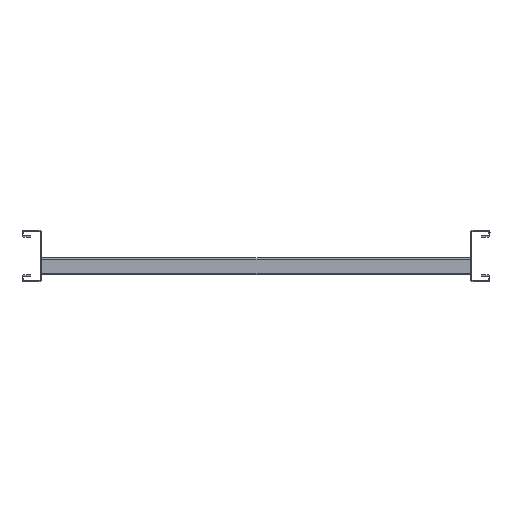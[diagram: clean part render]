
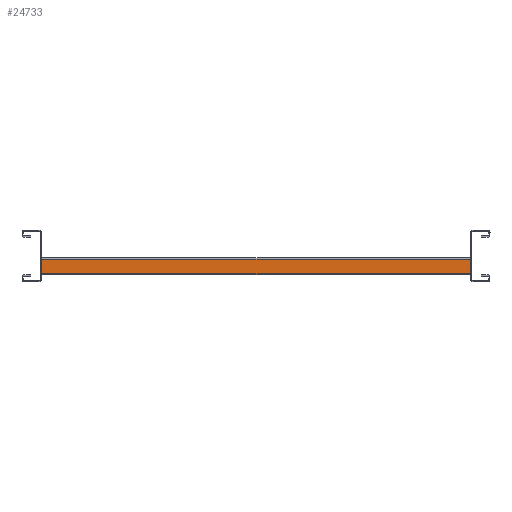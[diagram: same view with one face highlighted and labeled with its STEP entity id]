
A CAD part, left-side view. The second image highlights one B-rep face of the part: STEP entity #24733.
In plain terms, the highlighted planar face has unit normal (-1, 0, 0) as drawn and (0, 1, 0) by its records, which use the part's own axes.
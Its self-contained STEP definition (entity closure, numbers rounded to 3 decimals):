
#1779=FACE_OUTER_BOUND('',#3447,.T.);
#3447=EDGE_LOOP('',(#22220,#22221,#22222,#22223));
#6717=LINE('',#38034,#9957);
#6723=LINE('',#38051,#9963);
#6844=LINE('',#38496,#10084);
#6845=LINE('',#38498,#10085);
#9957=VECTOR('',#31276,304.8);
#9963=VECTOR('',#31288,304.8);
#10084=VECTOR('',#31637,304.8);
#10085=VECTOR('',#31640,304.8);
#12232=VERTEX_POINT('',#38031);
#12233=VERTEX_POINT('',#38033);
#12240=VERTEX_POINT('',#38048);
#12241=VERTEX_POINT('',#38050);
#15512=EDGE_CURVE('',#12232,#12233,#6717,.T.);
#15520=EDGE_CURVE('',#12240,#12241,#6723,.T.);
#15744=EDGE_CURVE('',#12241,#12232,#6844,.T.);
#15745=EDGE_CURVE('',#12240,#12233,#6845,.T.);
#22220=ORIENTED_EDGE('',*,*,#15512,.F.);
#22221=ORIENTED_EDGE('',*,*,#15744,.F.);
#22222=ORIENTED_EDGE('',*,*,#15520,.F.);
#22223=ORIENTED_EDGE('',*,*,#15745,.T.);
#23646=PLANE('',#26034);
#24733=ADVANCED_FACE('',(#1779),#23646,.T.);
#26034=AXIS2_PLACEMENT_3D('',#38497,#31638,#31639);
#31276=DIRECTION('',(0.,0.,-1.));
#31288=DIRECTION('',(0.,0.,1.));
#31637=DIRECTION('',(-1.,0.,0.));
#31638=DIRECTION('center_axis',(0.,1.,0.));
#31639=DIRECTION('ref_axis',(1.,0.,0.));
#31640=DIRECTION('',(-1.,0.,0.));
#38031=CARTESIAN_POINT('',(0.,20.,8.5));
#38033=CARTESIAN_POINT('',(0.,20.,-8.5));
#38034=CARTESIAN_POINT('',(0.,20.,8.5));
#38048=CARTESIAN_POINT('',(500.,20.,-8.5));
#38050=CARTESIAN_POINT('',(500.,20.,8.5));
#38051=CARTESIAN_POINT('',(500.,20.,-8.5));
#38496=CARTESIAN_POINT('',(0.,20.,8.5));
#38497=CARTESIAN_POINT('Origin',(0.,20.,8.5));
#38498=CARTESIAN_POINT('',(0.,20.,-8.5));
